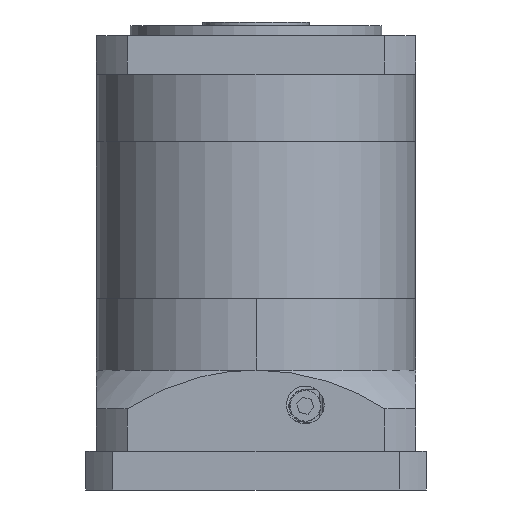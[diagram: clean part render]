
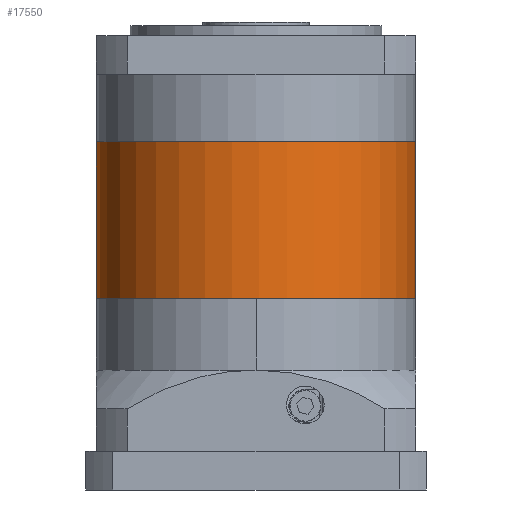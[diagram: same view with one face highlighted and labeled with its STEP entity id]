
A CAD part, front view. The second image highlights one B-rep face of the part: STEP entity #17550.
In plain terms, the highlighted cylindrical face has radius 82.5 mm (diameter 165 mm), a partial arc.
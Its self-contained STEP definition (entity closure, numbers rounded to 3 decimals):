
#1286 = DIRECTION ( 'NONE',  ( 0., 0., -1. ) ) ;
#3010 = VERTEX_POINT ( 'NONE', #45222 ) ;
#4568 = CARTESIAN_POINT ( 'NONE',  ( 82.5, 0., 40.5 ) ) ;
#4968 = VERTEX_POINT ( 'NONE', #43415 ) ;
#7728 = VERTEX_POINT ( 'NONE', #19146 ) ;
#15685 = ORIENTED_EDGE ( 'NONE', *, *, #37649, .T. ) ;
#17396 = EDGE_LOOP ( 'NONE', ( #31603, #39584, #23974, #15685 ) ) ;
#17550 = ADVANCED_FACE ( 'NONE', ( #26096 ), #34855, .T. ) ;
#18069 = DIRECTION ( 'NONE',  ( 0., 0., 1. ) ) ;
#18745 = VECTOR ( 'NONE', #1286, 1000. ) ;
#19034 = CARTESIAN_POINT ( 'NONE',  ( 0., 0., 40.5 ) ) ;
#19089 = DIRECTION ( 'NONE',  ( -1., 0., 0. ) ) ;
#19121 = DIRECTION ( 'NONE',  ( 0., 0., -1. ) ) ;
#19146 = CARTESIAN_POINT ( 'NONE',  ( -82.5, 0., 40.5 ) ) ;
#20536 = LINE ( 'NONE', #4568, #37999 ) ;
#21270 = CARTESIAN_POINT ( 'NONE',  ( 0., 0., 40.5 ) ) ;
#22853 = CIRCLE ( 'NONE', #41951, 82.5 ) ;
#23974 = ORIENTED_EDGE ( 'NONE', *, *, #37517, .T. ) ;
#24357 = EDGE_CURVE ( 'NONE', #32051, #7728, #46505, .T. ) ;
#25011 = DIRECTION ( 'NONE',  ( -1., 0., 0. ) ) ;
#25374 = AXIS2_PLACEMENT_3D ( 'NONE', #21270, #47143, #25011 ) ;
#26096 = FACE_OUTER_BOUND ( 'NONE', #17396, .T. ) ;
#26923 = DIRECTION ( 'NONE',  ( 0., 0., -1. ) ) ;
#31603 = ORIENTED_EDGE ( 'NONE', *, *, #37003, .F. ) ;
#32051 = VERTEX_POINT ( 'NONE', #46387 ) ;
#34707 = CARTESIAN_POINT ( 'NONE',  ( -82.5, 0., 40.5 ) ) ;
#34855 = CYLINDRICAL_SURFACE ( 'NONE', #47166, 82.5 ) ;
#37003 = EDGE_CURVE ( 'NONE', #32051, #4968, #20536, .T. ) ;
#37370 = LINE ( 'NONE', #34707, #18745 ) ;
#37517 = EDGE_CURVE ( 'NONE', #7728, #3010, #37370, .T. ) ;
#37649 = EDGE_CURVE ( 'NONE', #3010, #4968, #22853, .T. ) ;
#37999 = VECTOR ( 'NONE', #26923, 1000. ) ;
#39584 = ORIENTED_EDGE ( 'NONE', *, *, #24357, .T. ) ;
#40384 = CARTESIAN_POINT ( 'NONE',  ( 0., 0., -40.5 ) ) ;
#41951 = AXIS2_PLACEMENT_3D ( 'NONE', #40384, #18069, #44082 ) ;
#43415 = CARTESIAN_POINT ( 'NONE',  ( 82.5, 0., -40.5 ) ) ;
#44082 = DIRECTION ( 'NONE',  ( -1., 0., 0. ) ) ;
#45222 = CARTESIAN_POINT ( 'NONE',  ( -82.5, 0., -40.5 ) ) ;
#46387 = CARTESIAN_POINT ( 'NONE',  ( 82.5, 0., 40.5 ) ) ;
#46505 = CIRCLE ( 'NONE', #25374, 82.5 ) ;
#47143 = DIRECTION ( 'NONE',  ( 0., 0., -1. ) ) ;
#47166 = AXIS2_PLACEMENT_3D ( 'NONE', #19034, #19121, #19089 ) ;
